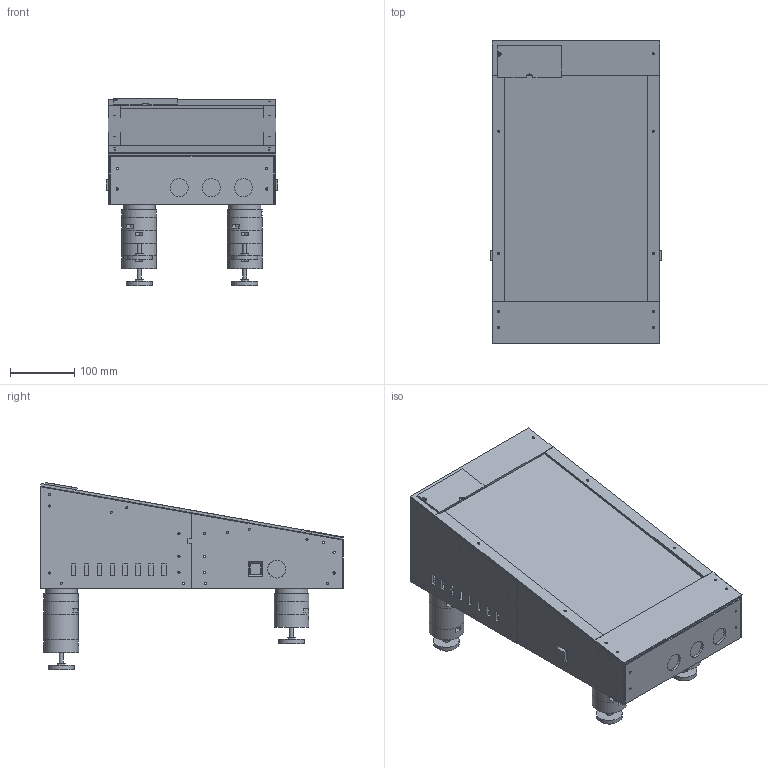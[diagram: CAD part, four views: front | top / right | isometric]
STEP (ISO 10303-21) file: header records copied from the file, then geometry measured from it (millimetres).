
FILE_DESCRIPTION(('Open CASCADE Model'),'2;1');
FILE_NAME('Open CASCADE Shape Model','2026-11-12T02:20:16',('Author'),( 'Open CASCADE'),'Open CASCADE STEP processor 7.8','Open CASCADE 7.8' ,'Unknown');
FILE_SCHEMA(('AUTOMOTIVE_DESIGN { 1 0 10303 214 1 1 1 1 }'));
Length unit declared in the file: millimetre
Products named in the file (89): Mini_VPin_Prototype_V1_15; left_front_wall; left_rear_wall; right_front_wall; right_rear_wall; front_button_panel; rear_vent_panel; corner_left_front_24; corner_left_front_56; corner_left_rear_24; corner_left_rear_128; corner_right_front_24; corner_right_front_56; corner_right_rear_24; corner_right_rear_128; splice_left; splice_right; floor_block_left_28; floor_block_left_218; floor_block_left_252; floor_block_left_442; floor_block_right_28; floor_block_right_218; floor_block_right_252; floor_block_right_442; bottom_front; bottom_rear; foot_backing_left_front; foot_receiver_left_front; foot_extension_left_front_1_20mm; foot_terminal_left_front; REFERENCE_swivel_rubber_pad_left_front; foot_backing_left_rear; foot_receiver_left_rear; foot_extension_left_rear_1_20mm; foot_extension_left_rear_2_40mm; foot_terminal_left_rear; REFERENCE_swivel_rubber_pad_left_rear; foot_backing_right_front; foot_receiver_right_front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
Assembly tree (88 placements, depth 2):
  Mini_VPin_Prototype_V1_15
    left_front_wall
    left_rear_wall
    right_front_wall
    right_rear_wall
    front_button_panel
    rear_vent_panel
    corner_left_front_24
    corner_left_front_56
    corner_left_rear_24
    corner_left_rear_128
    corner_right_front_24
    corner_right_front_56
    corner_right_rear_24
    corner_right_rear_128
    splice_left
    splice_right
    floor_block_left_28
    floor_block_left_218
    floor_block_left_252
    floor_block_left_442
    floor_block_right_28
    floor_block_right_218
    floor_block_right_252
    floor_block_right_442
    bottom_front
    bottom_rear
    foot_backing_left_front
    foot_receiver_left_front
    foot_extension_left_front_1_20mm
    foot_terminal_left_front
    REFERENCE_swivel_rubber_pad_left_front
    foot_backing_left_rear
    foot_receiver_left_rear
    foot_extension_left_rear_1_20mm
    foot_extension_left_rear_2_40mm
    foot_terminal_left_rear
    REFERENCE_swivel_rubber_pad_left_rear
    foot_backing_right_front
    foot_receiver_right_front
    foot_extension_right_front_1_20mm
    foot_terminal_right_front
    REFERENCE_swivel_rubber_pad_right_front
    foot_backing_right_rear
    foot_receiver_right_rear
    foot_extension_right_rear_1_20mm
    foot_extension_right_rear_2_40mm
    foot_terminal_right_rear
    REFERENCE_swivel_rubber_pad_right_rear
    top_block_left_25
    top_block_left_50
    top_block_left_140
    top_block_left_330
    top_block_left_450
    top_block_right_25
    top_block_right_50
    top_block_right_140
    top_block_right_330
    top_block_right_450
    monitor_saddle_left_180
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Bounding box: 267 x 470.54 x 290.59 mm (x, y, z)
Volume: 8028241.6 mm3; surface area: 1577901.6 mm2
Topology: 88 solids, 88 shells, 1733 faces, 4267 edges, 2842 vertices
Faces by surface type: plane 1344, cylinder 363, extrusion 20, bspline 4, cone 2
Full cylindrical faces by diameter (mm): 3.4 x158, 4.5 x52, 6 x6, 6.4 x2, 6.7 x38, 8.4 x16, 10 x16, 12 x4, 16 x10, 27.8 x2, 28 x5, 40 x6, 50 x8, 54 x14
Entity records: 119689 total; most frequent: CARTESIAN_POINT 30200, DIRECTION 15915, VECTOR 10053, LINE 10033, ORIENTED_EDGE 8534, PCURVE 8534, DEFINITIONAL_REPRESENTATION 8534, EDGE_CURVE 4267
